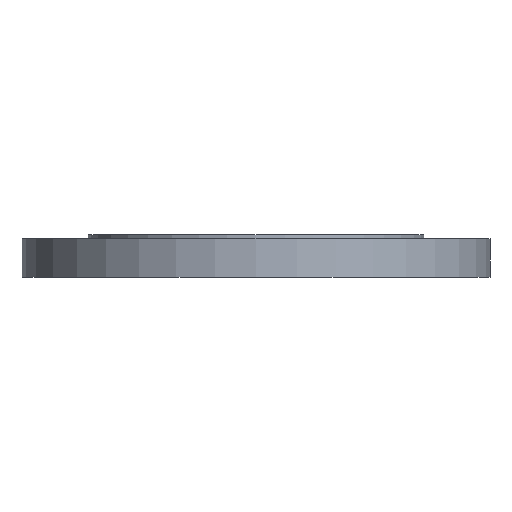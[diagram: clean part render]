
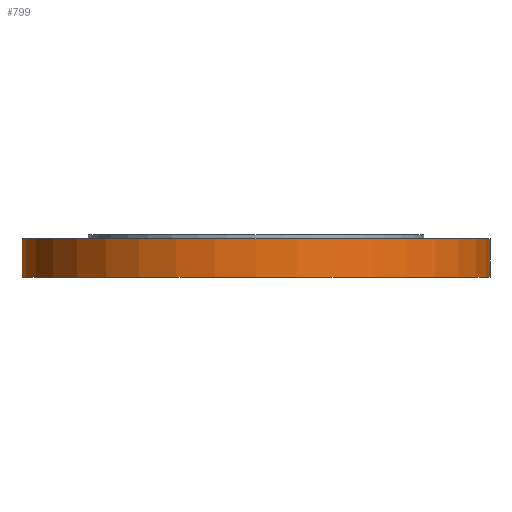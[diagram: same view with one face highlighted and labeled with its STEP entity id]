
A CAD part, front view. The second image highlights one B-rep face of the part: STEP entity #799.
In plain terms, the highlighted cylindrical face has radius 330 mm (diameter 660 mm), a partial arc.
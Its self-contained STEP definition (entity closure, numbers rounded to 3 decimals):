
#7 = CARTESIAN_POINT ( 'NONE',  ( 330., 0., -5.5 ) ) ;
#18 = CARTESIAN_POINT ( 'NONE',  ( -330., 0., -60. ) ) ;
#65 = VERTEX_POINT ( 'NONE', #18 ) ;
#77 = VERTEX_POINT ( 'NONE', #7 ) ;
#119 = FACE_OUTER_BOUND ( 'NONE', #1142, .T. ) ;
#236 = VERTEX_POINT ( 'NONE', #802 ) ;
#256 = CIRCLE ( 'NONE', #877, 330. ) ;
#338 = CARTESIAN_POINT ( 'NONE',  ( 0., 0., -60. ) ) ;
#350 = DIRECTION ( 'NONE',  ( 0., 0., 1. ) ) ;
#360 = VECTOR ( 'NONE', #350, 1000. ) ;
#393 = CIRCLE ( 'NONE', #666, 330. ) ;
#522 = DIRECTION ( 'NONE',  ( 0., 0., -1. ) ) ;
#525 = ORIENTED_EDGE ( 'NONE', *, *, #734, .F. ) ;
#527 = ORIENTED_EDGE ( 'NONE', *, *, #918, .F. ) ;
#530 = ORIENTED_EDGE ( 'NONE', *, *, #956, .T. ) ;
#531 = ORIENTED_EDGE ( 'NONE', *, *, #1016, .T. ) ;
#557 = DIRECTION ( 'NONE',  ( 1., 0., 0. ) ) ;
#615 = VECTOR ( 'NONE', #1517, 1000. ) ;
#666 = AXIS2_PLACEMENT_3D ( 'NONE', #1518, #522, #1072 ) ;
#671 = LINE ( 'NONE', #1213, #615 ) ;
#676 = VERTEX_POINT ( 'NONE', #1446 ) ;
#724 = CYLINDRICAL_SURFACE ( 'NONE', #748, 330. ) ;
#734 = EDGE_CURVE ( 'NONE', #65, #676, #671, .T. ) ;
#748 = AXIS2_PLACEMENT_3D ( 'NONE', #1250, #1532, #557 ) ;
#799 = ADVANCED_FACE ( 'NONE', ( #119 ), #724, .T. ) ;
#802 = CARTESIAN_POINT ( 'NONE',  ( 330., 0., -60. ) ) ;
#877 = AXIS2_PLACEMENT_3D ( 'NONE', #338, #896, #1365 ) ;
#896 = DIRECTION ( 'NONE',  ( 0., 0., -1. ) ) ;
#918 = EDGE_CURVE ( 'NONE', #236, #65, #256, .T. ) ;
#956 = EDGE_CURVE ( 'NONE', #236, #77, #1047, .T. ) ;
#1016 = EDGE_CURVE ( 'NONE', #77, #676, #393, .T. ) ;
#1047 = LINE ( 'NONE', #1445, #360 ) ;
#1072 = DIRECTION ( 'NONE',  ( -1., 0., 0. ) ) ;
#1142 = EDGE_LOOP ( 'NONE', ( #525, #527, #530, #531 ) ) ;
#1213 = CARTESIAN_POINT ( 'NONE',  ( -330., 0., -145. ) ) ;
#1250 = CARTESIAN_POINT ( 'NONE',  ( 0., 0., -145. ) ) ;
#1365 = DIRECTION ( 'NONE',  ( -1., 0., 0. ) ) ;
#1445 = CARTESIAN_POINT ( 'NONE',  ( 330., 0., -145. ) ) ;
#1446 = CARTESIAN_POINT ( 'NONE',  ( -330., 0., -5.5 ) ) ;
#1517 = DIRECTION ( 'NONE',  ( 0., 0., 1. ) ) ;
#1518 = CARTESIAN_POINT ( 'NONE',  ( 0., 0., -5.5 ) ) ;
#1532 = DIRECTION ( 'NONE',  ( 0., 0., 1. ) ) ;
